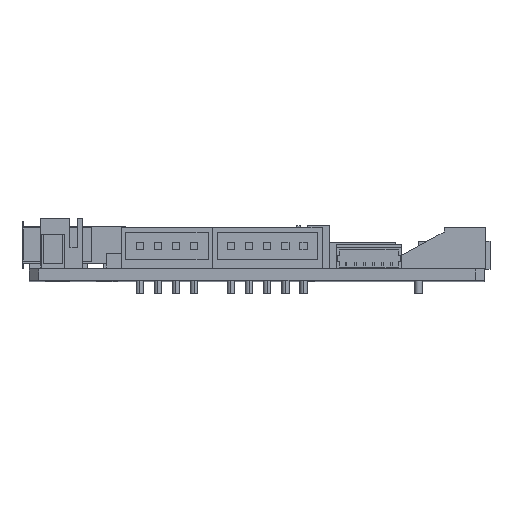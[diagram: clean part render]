
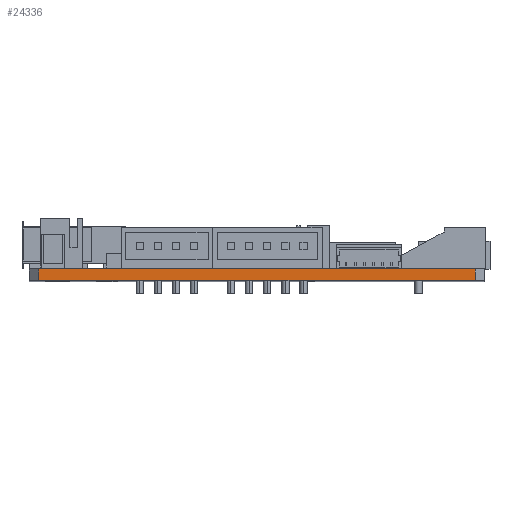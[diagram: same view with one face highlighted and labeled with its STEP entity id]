
A CAD part, top view. The second image highlights one B-rep face of the part: STEP entity #24336.
In plain terms, the highlighted planar face has unit normal (0, 0, 1).
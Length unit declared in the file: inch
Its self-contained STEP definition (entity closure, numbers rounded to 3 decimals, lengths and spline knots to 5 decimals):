
#1621 = DIRECTION ( 'NONE',  ( -1., 0., 0. ) ) ;
#1797 = ORIENTED_EDGE ( 'NONE', *, *, #3904, .T. ) ;
#2405 = VECTOR ( 'NONE', #15181, 39.37008 ) ;
#2963 = EDGE_CURVE ( 'NONE', #3521, #13320, #6553, .T. ) ;
#3521 = VERTEX_POINT ( 'NONE', #22568 ) ;
#3904 = EDGE_CURVE ( 'NONE', #3521, #7789, #22848, .T. ) ;
#5154 = VECTOR ( 'NONE', #14078, 39.37008 ) ;
#6156 = ORIENTED_EDGE ( 'NONE', *, *, #9756, .T. ) ;
#6553 = LINE ( 'NONE', #18178, #31928 ) ;
#7629 = CARTESIAN_POINT ( 'NONE',  ( -1.184, 0.063, 1.8 ) ) ;
#7789 = VERTEX_POINT ( 'NONE', #25209 ) ;
#9756 = EDGE_CURVE ( 'NONE', #33330, #13320, #29280, .T. ) ;
#9972 = CARTESIAN_POINT ( 'NONE',  ( -1.234, 0.063, 1.8 ) ) ;
#12311 = CARTESIAN_POINT ( 'NONE',  ( -1.234, 0., 1.8 ) ) ;
#13320 = VERTEX_POINT ( 'NONE', #15166 ) ;
#14078 = DIRECTION ( 'NONE',  ( 0., -1., 0. ) ) ;
#15166 = CARTESIAN_POINT ( 'NONE',  ( 1.184, 0.063, 1.8 ) ) ;
#15181 = DIRECTION ( 'NONE',  ( 1., 0., 0. ) ) ;
#15694 = DIRECTION ( 'NONE',  ( 0., 0., -1. ) ) ;
#18178 = CARTESIAN_POINT ( 'NONE',  ( -1.234, 0.063, 1.8 ) ) ;
#18260 = EDGE_CURVE ( 'NONE', #7789, #33330, #21647, .T. ) ;
#20371 = AXIS2_PLACEMENT_3D ( 'NONE', #9972, #15694, #1621 ) ;
#21647 = LINE ( 'NONE', #12311, #2405 ) ;
#21792 = FACE_OUTER_BOUND ( 'NONE', #31351, .T. ) ;
#22568 = CARTESIAN_POINT ( 'NONE',  ( -1.184, 0.063, 1.8 ) ) ;
#22848 = LINE ( 'NONE', #7629, #5154 ) ;
#23803 = ORIENTED_EDGE ( 'NONE', *, *, #18260, .T. ) ;
#24336 = ADVANCED_FACE ( 'NONE', ( #21792 ), #24435, .F. ) ;
#24435 = PLANE ( 'NONE',  #20371 ) ;
#25209 = CARTESIAN_POINT ( 'NONE',  ( -1.184, 0., 1.8 ) ) ;
#27291 = DIRECTION ( 'NONE',  ( 1., 0., 0. ) ) ;
#29280 = LINE ( 'NONE', #35188, #30414 ) ;
#30414 = VECTOR ( 'NONE', #32525, 39.37008 ) ;
#31351 = EDGE_LOOP ( 'NONE', ( #23803, #6156, #37587, #1797 ) ) ;
#31928 = VECTOR ( 'NONE', #27291, 39.37008 ) ;
#32525 = DIRECTION ( 'NONE',  ( 0., 1., 0. ) ) ;
#33175 = CARTESIAN_POINT ( 'NONE',  ( 1.184, 0., 1.8 ) ) ;
#33330 = VERTEX_POINT ( 'NONE', #33175 ) ;
#35188 = CARTESIAN_POINT ( 'NONE',  ( 1.184, 0.063, 1.8 ) ) ;
#37587 = ORIENTED_EDGE ( 'NONE', *, *, #2963, .F. ) ;
